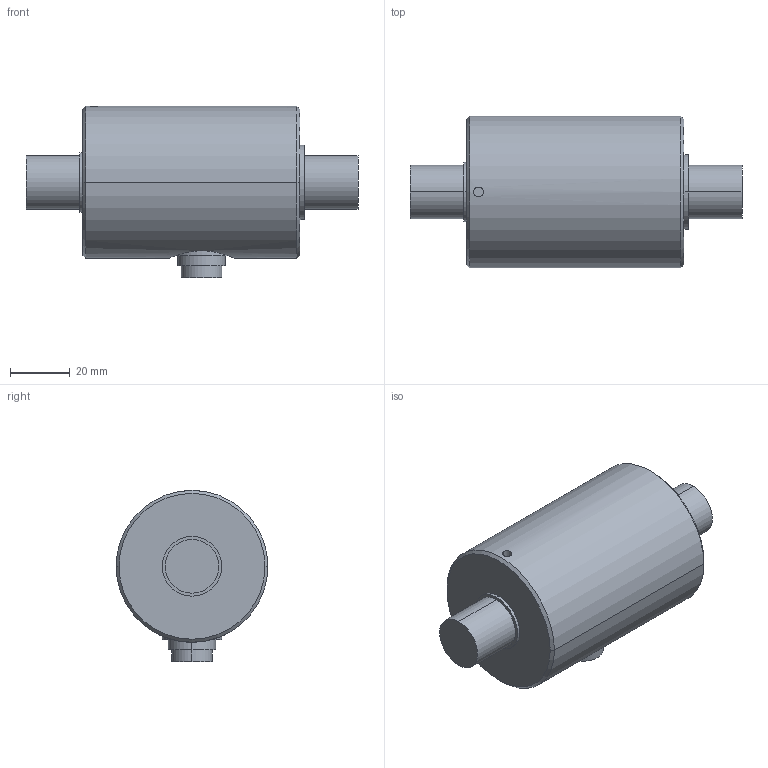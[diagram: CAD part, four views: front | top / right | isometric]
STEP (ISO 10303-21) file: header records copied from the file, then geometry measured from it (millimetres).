
FILE_DESCRIPTION(('STEP AP214'),'1');
FILE_NAME('burster_8625-5020_7b5aifq2bcj5yj5puot4o85r0.stp','2017-04-20T16:11:51',('TraceParts'),('TraceParts S.A.'),'Spatial InterOp 3D',' ',' ');
FILE_SCHEMA(('automotive_design'));
Length unit declared in the file: millimetre
Products named in the file (1): burster_8625-5020_7b5aifq2bcj5yj5puot4o85r0
Bounding box: 111.5 x 51 x 57.5 mm (x, y, z)
Volume: 159414.8 mm3; surface area: 19032.6 mm2
Topology: 1 solids, 1 shells, 61 faces, 130 edges, 88 vertices
Faces by surface type: cylinder 34, plane 19, bspline 4, cone 4
Entity records: 2676 total; most frequent: CARTESIAN_POINT 801, DIRECTION 302, ORIENTED_EDGE 260, AXIS2_PLACEMENT_3D 131, EDGE_CURVE 130, VERTEX_POINT 88, EDGE_LOOP 78, CIRCLE 73
